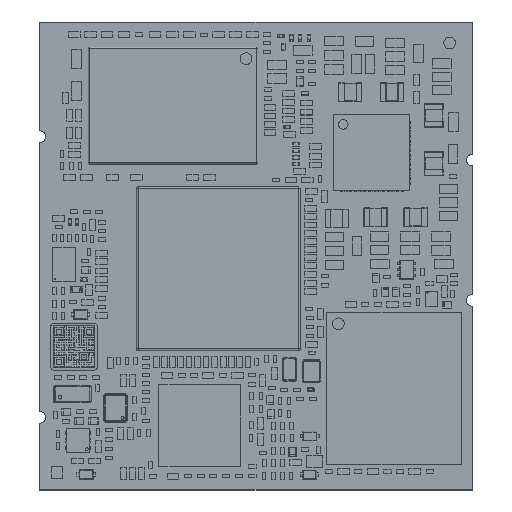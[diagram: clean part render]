
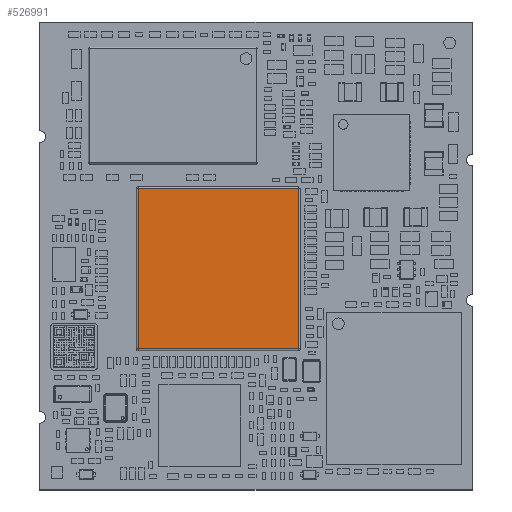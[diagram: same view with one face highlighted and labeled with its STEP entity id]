
A CAD part, top view. The second image highlights one B-rep face of the part: STEP entity #526991.
In plain terms, the highlighted planar face has unit normal (0, 0, 1).
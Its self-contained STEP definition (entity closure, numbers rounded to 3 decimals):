
#525776 = VERTEX_POINT('',#525777);
#525777 = CARTESIAN_POINT('',(22.13,12.05,2.958));
#525796 = CYLINDRICAL_SURFACE('',#525797,0.15);
#525797 = AXIS2_PLACEMENT_3D('',#525798,#525799,#525800);
#525798 = CARTESIAN_POINT('',(22.13,22.4,2.808));
#525799 = DIRECTION('',(0.,-1.,0.));
#525800 = DIRECTION('',(0.707,0.,0.707));
#525823 = CYLINDRICAL_SURFACE('',#525824,0.15);
#525824 = AXIS2_PLACEMENT_3D('',#525825,#525826,#525827);
#525825 = CARTESIAN_POINT('',(18.78,12.05,2.808));
#525826 = DIRECTION('',(-1.,0.,0.));
#525827 = DIRECTION('',(0.,-0.707,0.707));
#525897 = VERTEX_POINT('',#525898);
#525898 = CARTESIAN_POINT('',(8.43,12.05,2.958));
#525932 = CYLINDRICAL_SURFACE('',#525933,0.15);
#525933 = AXIS2_PLACEMENT_3D('',#525934,#525935,#525936);
#525934 = CARTESIAN_POINT('',(8.43,15.4,2.808));
#525935 = DIRECTION('',(0.,1.,0.));
#525936 = DIRECTION('',(-0.707,0.,0.707));
#525973 = EDGE_CURVE('',#525776,#525897,#525974,.T.);
#525974 = SURFACE_CURVE('',#525975,(#525979,#525985),.PCURVE_S1.);
#525975 = LINE('',#525976,#525977);
#525976 = CARTESIAN_POINT('',(18.78,12.05,2.958));
#525977 = VECTOR('',#525978,1.);
#525978 = DIRECTION('',(-1.,0.,0.));
#525979 = PCURVE('',#525823,#525980);
#525980 = DEFINITIONAL_REPRESENTATION('',(#525981),#525984);
#525981 = B_SPLINE_CURVE_WITH_KNOTS('',1,(#525982,#525983),
  .UNSPECIFIED.,.F.,.F.,(2,2),(-3.35,10.35),.PIECEWISE_BEZIER_KNOTS.);
#525982 = CARTESIAN_POINT('',(0.785,-3.35));
#525983 = CARTESIAN_POINT('',(0.785,10.35));
#525984 = ( GEOMETRIC_REPRESENTATION_CONTEXT(2) 
PARAMETRIC_REPRESENTATION_CONTEXT() REPRESENTATION_CONTEXT('2D SPACE',''
  ) );
#525985 = PCURVE('',#525986,#525991);
#525986 = PLANE('',#525987);
#525987 = AXIS2_PLACEMENT_3D('',#525988,#525989,#525990);
#525988 = CARTESIAN_POINT('',(15.28,18.9,2.958));
#525989 = DIRECTION('',(0.,0.,1.));
#525990 = DIRECTION('',(1.,0.,0.));
#525991 = DEFINITIONAL_REPRESENTATION('',(#525992),#525996);
#525992 = LINE('',#525993,#525994);
#525993 = CARTESIAN_POINT('',(3.5,-6.85));
#525994 = VECTOR('',#525995,1.);
#525995 = DIRECTION('',(-1.,0.));
#525996 = ( GEOMETRIC_REPRESENTATION_CONTEXT(2) 
PARAMETRIC_REPRESENTATION_CONTEXT() REPRESENTATION_CONTEXT('2D SPACE',''
  ) );
#526004 = VERTEX_POINT('',#526005);
#526005 = CARTESIAN_POINT('',(22.13,25.75,2.958));
#526024 = CYLINDRICAL_SURFACE('',#526025,0.15);
#526025 = AXIS2_PLACEMENT_3D('',#526026,#526027,#526028);
#526026 = CARTESIAN_POINT('',(11.78,25.75,2.808));
#526027 = DIRECTION('',(1.,0.,0.));
#526028 = DIRECTION('',(0.,0.707,0.707));
#526112 = EDGE_CURVE('',#526004,#525776,#526113,.T.);
#526113 = SURFACE_CURVE('',#526114,(#526118,#526124),.PCURVE_S1.);
#526114 = LINE('',#526115,#526116);
#526115 = CARTESIAN_POINT('',(22.13,22.4,2.958));
#526116 = VECTOR('',#526117,1.);
#526117 = DIRECTION('',(0.,-1.,0.));
#526118 = PCURVE('',#525796,#526119);
#526119 = DEFINITIONAL_REPRESENTATION('',(#526120),#526123);
#526120 = B_SPLINE_CURVE_WITH_KNOTS('',1,(#526121,#526122),
  .UNSPECIFIED.,.F.,.F.,(2,2),(-3.35,10.35),.PIECEWISE_BEZIER_KNOTS.);
#526121 = CARTESIAN_POINT('',(0.785,-3.35));
#526122 = CARTESIAN_POINT('',(0.785,10.35));
#526123 = ( GEOMETRIC_REPRESENTATION_CONTEXT(2) 
PARAMETRIC_REPRESENTATION_CONTEXT() REPRESENTATION_CONTEXT('2D SPACE',''
  ) );
#526124 = PCURVE('',#525986,#526125);
#526125 = DEFINITIONAL_REPRESENTATION('',(#526126),#526130);
#526126 = LINE('',#526127,#526128);
#526127 = CARTESIAN_POINT('',(6.85,3.5));
#526128 = VECTOR('',#526129,1.);
#526129 = DIRECTION('',(0.,-1.));
#526130 = ( GEOMETRIC_REPRESENTATION_CONTEXT(2) 
PARAMETRIC_REPRESENTATION_CONTEXT() REPRESENTATION_CONTEXT('2D SPACE',''
  ) );
#526138 = VERTEX_POINT('',#526139);
#526139 = CARTESIAN_POINT('',(8.43,25.75,2.958));
#526241 = EDGE_CURVE('',#526138,#526004,#526242,.T.);
#526242 = SURFACE_CURVE('',#526243,(#526247,#526253),.PCURVE_S1.);
#526243 = LINE('',#526244,#526245);
#526244 = CARTESIAN_POINT('',(11.78,25.75,2.958));
#526245 = VECTOR('',#526246,1.);
#526246 = DIRECTION('',(1.,0.,0.));
#526247 = PCURVE('',#526024,#526248);
#526248 = DEFINITIONAL_REPRESENTATION('',(#526249),#526252);
#526249 = B_SPLINE_CURVE_WITH_KNOTS('',1,(#526250,#526251),
  .UNSPECIFIED.,.F.,.F.,(2,2),(-3.35,10.35),.PIECEWISE_BEZIER_KNOTS.);
#526250 = CARTESIAN_POINT('',(0.785,-3.35));
#526251 = CARTESIAN_POINT('',(0.785,10.35));
#526252 = ( GEOMETRIC_REPRESENTATION_CONTEXT(2) 
PARAMETRIC_REPRESENTATION_CONTEXT() REPRESENTATION_CONTEXT('2D SPACE',''
  ) );
#526253 = PCURVE('',#525986,#526254);
#526254 = DEFINITIONAL_REPRESENTATION('',(#526255),#526259);
#526255 = LINE('',#526256,#526257);
#526256 = CARTESIAN_POINT('',(-3.5,6.85));
#526257 = VECTOR('',#526258,1.);
#526258 = DIRECTION('',(1.,0.));
#526259 = ( GEOMETRIC_REPRESENTATION_CONTEXT(2) 
PARAMETRIC_REPRESENTATION_CONTEXT() REPRESENTATION_CONTEXT('2D SPACE',''
  ) );
#526972 = EDGE_CURVE('',#525897,#526138,#526973,.T.);
#526973 = SURFACE_CURVE('',#526974,(#526978,#526984),.PCURVE_S1.);
#526974 = LINE('',#526975,#526976);
#526975 = CARTESIAN_POINT('',(8.43,15.4,2.958));
#526976 = VECTOR('',#526977,1.);
#526977 = DIRECTION('',(0.,1.,0.));
#526978 = PCURVE('',#525932,#526979);
#526979 = DEFINITIONAL_REPRESENTATION('',(#526980),#526983);
#526980 = B_SPLINE_CURVE_WITH_KNOTS('',1,(#526981,#526982),
  .UNSPECIFIED.,.F.,.F.,(2,2),(-3.35,10.35),.PIECEWISE_BEZIER_KNOTS.);
#526981 = CARTESIAN_POINT('',(0.785,-3.35));
#526982 = CARTESIAN_POINT('',(0.785,10.35));
#526983 = ( GEOMETRIC_REPRESENTATION_CONTEXT(2) 
PARAMETRIC_REPRESENTATION_CONTEXT() REPRESENTATION_CONTEXT('2D SPACE',''
  ) );
#526984 = PCURVE('',#525986,#526985);
#526985 = DEFINITIONAL_REPRESENTATION('',(#526986),#526990);
#526986 = LINE('',#526987,#526988);
#526987 = CARTESIAN_POINT('',(-6.85,-3.5));
#526988 = VECTOR('',#526989,1.);
#526989 = DIRECTION('',(0.,1.));
#526990 = ( GEOMETRIC_REPRESENTATION_CONTEXT(2) 
PARAMETRIC_REPRESENTATION_CONTEXT() REPRESENTATION_CONTEXT('2D SPACE',''
  ) );
#526991 = ADVANCED_FACE('',(#526992),#525986,.T.);
#526992 = FACE_BOUND('',#526993,.T.);
#526993 = EDGE_LOOP('',(#526994,#526995,#526996,#526997));
#526994 = ORIENTED_EDGE('',*,*,#525973,.F.);
#526995 = ORIENTED_EDGE('',*,*,#526112,.F.);
#526996 = ORIENTED_EDGE('',*,*,#526241,.F.);
#526997 = ORIENTED_EDGE('',*,*,#526972,.F.);
